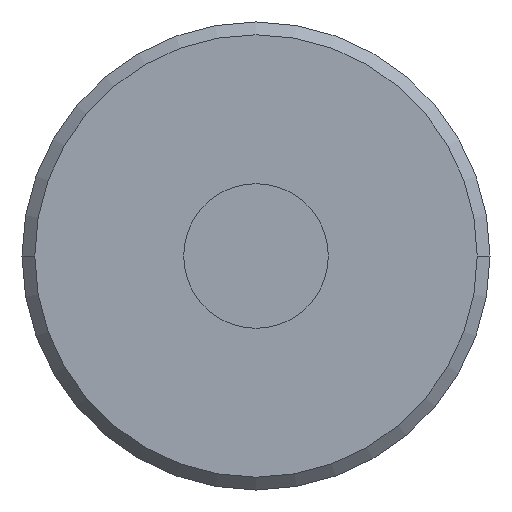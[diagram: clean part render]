
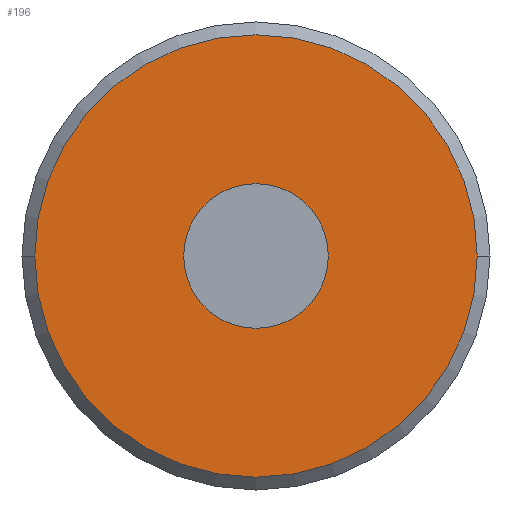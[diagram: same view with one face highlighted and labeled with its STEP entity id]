
A CAD part, front view. The second image highlights one B-rep face of the part: STEP entity #196.
In plain terms, the highlighted planar face has unit normal (0, -1, 0).
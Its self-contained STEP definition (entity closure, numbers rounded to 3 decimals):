
#11=CARTESIAN_POINT('',(0.,10.,0.));
#12=DIRECTION('',(0.,1.,0.));
#13=DIRECTION('',(1.,0.,0.));
#14=AXIS2_PLACEMENT_3D('',#11,#12,#13);
#20=CARTESIAN_POINT('',(0.,10.,0.));
#21=DIRECTION('',(0.,-1.,0.));
#22=DIRECTION('',(-1.,0.,0.));
#23=AXIS2_PLACEMENT_3D('',#20,#21,#22);
#25=CARTESIAN_POINT('',(0.,10.,0.));
#26=DIRECTION('',(0.,-1.,0.));
#27=DIRECTION('',(1.,0.,0.));
#28=AXIS2_PLACEMENT_3D('',#25,#26,#27);
#30=CARTESIAN_POINT('',(0.,10.,0.));
#31=DIRECTION('',(0.,1.,0.));
#32=DIRECTION('',(-1.,0.,0.));
#33=AXIS2_PLACEMENT_3D('',#30,#31,#32);
#125=CARTESIAN_POINT('',(1.7,10.,0.));
#126=CARTESIAN_POINT('',(-1.7,10.,0.));
#127=VERTEX_POINT('',#125);
#128=VERTEX_POINT('',#126);
#145=CARTESIAN_POINT('',(-5.2,10.,0.));
#146=CARTESIAN_POINT('',(5.2,10.,0.));
#147=VERTEX_POINT('',#145);
#148=VERTEX_POINT('',#146);
#180=CARTESIAN_POINT('',(0.,10.,0.));
#181=DIRECTION('',(0.,1.,0.));
#182=DIRECTION('',(1.,0.,0.));
#183=AXIS2_PLACEMENT_3D('',#180,#181,#182);
#184=PLANE('',#183);
#186=ORIENTED_EDGE('',*,*,#185,.F.);
#188=ORIENTED_EDGE('',*,*,#187,.F.);
#189=EDGE_LOOP('',(#186,#188));
#190=FACE_OUTER_BOUND('',#189,.F.);
#191=ORIENTED_EDGE('',*,*,#170,.F.);
#193=ORIENTED_EDGE('',*,*,#192,.F.);
#194=EDGE_LOOP('',(#191,#193));
#195=FACE_BOUND('',#194,.F.);
#15=CIRCLE('',#14,1.7);
#24=CIRCLE('',#23,5.2);
#29=CIRCLE('',#28,5.2);
#34=CIRCLE('',#33,1.7);
#170=EDGE_CURVE('',#127,#128,#15,.T.);
#185=EDGE_CURVE('',#147,#148,#24,.T.);
#187=EDGE_CURVE('',#148,#147,#29,.T.);
#192=EDGE_CURVE('',#128,#127,#34,.T.);
#196=ADVANCED_FACE('',(#190,#195),#184,.F.);
